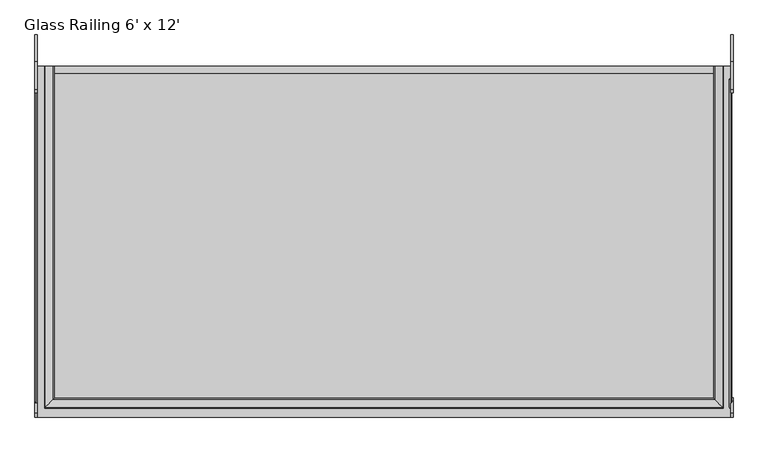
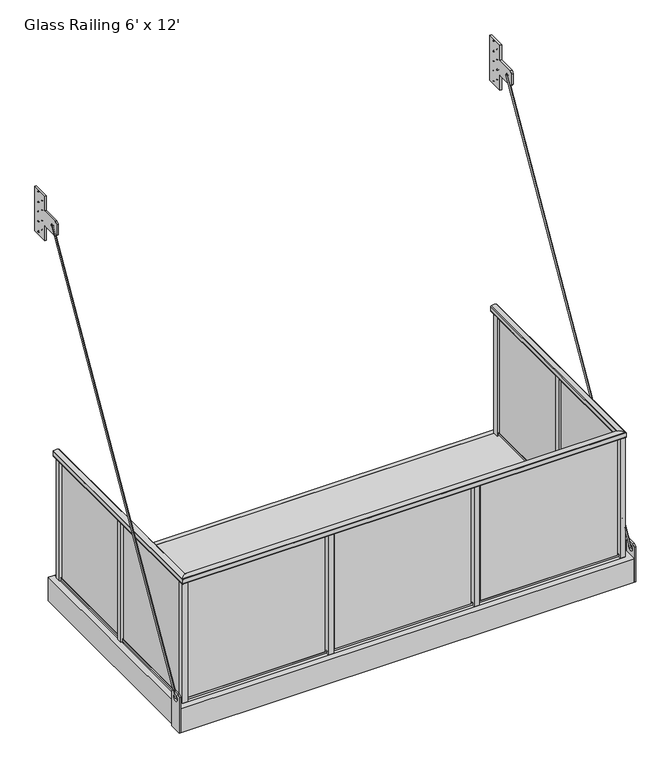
"""IFC4 building model written with IfcOpenShell, lengths in millimetres: proxy geometry, Specialty-Equipment_Endurable-Building-Products_Standard-Balcony : Glass Railing 6' x 12'."""

import ifcopenshell
import ifcopenshell.guid

model = None  # the IFC model being written
_history = None  # IfcOwnerHistory: only IFC2X3 demands one
_inside = {}  # id of a spatial element -> (the spatial element, [elements in it])
_under = {}  # id of a project, library or spatial element -> (it, [spatial elements below it])
_declared = {}  # id of a project -> (the project, [libraries it declares])
_typed = {}  # id of a type object -> (the type object, [elements of that type])
_made_of = {}  # id of a material, layer set ... -> (it, [elements and type objects made of it])


def new_model(schema):
    """Start an empty IFC model of exactly this schema.

    Asked for "IFC4X3", IfcOpenShell would pick the latest addendum, in which some entities
    have other attributes; the version numbers below select the first issue.
    IFC2X3 requires an IfcOwnerHistory on every rooted entity: one is made here for all.
    """
    global model, _history
    if schema == "IFC4X3":
        model = ifcopenshell.file(schema_version=(4, 3, 0, 0))
    else:
        model = ifcopenshell.file(schema=schema)
    _inside.clear()
    _under.clear()
    _declared.clear()
    _typed.clear()
    _made_of.clear()
    _history = None
    if model.schema == "IFC2X3":
        org = make("IfcOrganization", Name="unknown")
        user = make(
            "IfcPersonAndOrganization",
            ThePerson=make("IfcPerson", FamilyName="unknown"),
            TheOrganization=org,
        )
        app = make(
            "IfcApplication",
            ApplicationDeveloper=org,
            Version="unknown",
            ApplicationFullName="unknown",
            ApplicationIdentifier="unknown",
        )
        _history = make(
            "IfcOwnerHistory",
            OwningUser=user,
            OwningApplication=app,
            ChangeAction="ADDED",
            CreationDate=0,
        )
    return model


def make(cls, **values):
    """One entity of the class cls with the attributes given. An attribute that is None is left unset."""
    return model.create_entity(
        cls, **{name: value for name, value in values.items() if value is not None}
    )


def rooted(cls, **values):
    """An entity with a GlobalId (a new one), such as an element, a storey or a relation."""
    return make(cls, GlobalId=ifcopenshell.guid.new(), OwnerHistory=_history, **values)


def si_unit(unit_type, name, prefix=None):
    """IfcSIUnit, for example si_unit("LENGTHUNIT", "METRE", prefix="MILLI")."""
    return make("IfcSIUnit", UnitType=unit_type, Prefix=prefix, Name=name)


def assignment(units):
    """IfcUnitAssignment: the units of a project."""
    return None if units is None else make("IfcUnitAssignment", Units=units)


def point(xyz):
    """IfcCartesianPoint."""
    return None if xyz is None else make("IfcCartesianPoint", Coordinates=xyz)


def direction(xyz):
    """IfcDirection."""
    return None if xyz is None else make("IfcDirection", DirectionRatios=xyz)


def frame(location, z_axis=None, x_axis=None):
    """IfcAxis2Placement3D, a coordinate frame: its origin and axes. An axis left out is left unset."""
    return make(
        "IfcAxis2Placement3D",
        Location=point(location),
        Axis=direction(z_axis),
        RefDirection=direction(x_axis),
    )


def frame_2d(location, x_axis=None):
    """IfcAxis2Placement2D, a coordinate frame in the plane: its origin and x axis."""
    return make(
        "IfcAxis2Placement2D", Location=point(location), RefDirection=direction(x_axis)
    )


def origin():
    """The frame at (0, 0, 0) with its axes left unset."""
    return frame((0.0, 0.0, 0.0))


def origin_2d():
    """The frame at (0, 0) in the plane with its x axis left unset."""
    return frame_2d((0.0, 0.0))


def place(relative_to, where):
    """IfcLocalPlacement: puts the frame where relative to a parent placement (None: the world)."""
    return make(
        "IfcLocalPlacement", PlacementRelTo=relative_to, RelativePlacement=where
    )


def context(
    kind, dimensions, precision=None, world=None, true_north=None, identifier=None
):
    """IfcGeometricRepresentationContext, for example the 3D "Model" context."""
    return make(
        "IfcGeometricRepresentationContext",
        ContextIdentifier=identifier,
        ContextType=kind,
        CoordinateSpaceDimension=dimensions,
        Precision=precision,
        WorldCoordinateSystem=world,
        TrueNorth=true_north,
    )


def project(units=None, contexts=None):
    """IfcProject with its units and contexts."""
    return rooted(
        "IfcProject",
        Name="project",
        RepresentationContexts=contexts,
        UnitsInContext=assignment(units),
    )


def spatial(cls, under=None, at=None, **own):
    """A site, building, storey or space (cls), placed at a placement, below another one or the project."""
    s = rooted(cls, ObjectPlacement=at, **own)
    if under is not None:
        _under.setdefault(under.id(), (under, []))[1].append(s)
    return s


def polyline(points):
    """IfcPolyline through the points."""
    return make("IfcPolyline", Points=[point(p) for p in points])


def circle_curve(where, radius):
    """IfcCircle in the frame where."""
    return make("IfcCircle", Position=where, Radius=radius)


def ellipse_curve(where, semi_axis1, semi_axis2):
    """IfcEllipse in the frame where."""
    return make(
        "IfcEllipse", Position=where, SemiAxis1=semi_axis1, SemiAxis2=semi_axis2
    )


def trimmed(basis, trim1, trim2, sense, master):
    """IfcTrimmedCurve: the piece of a basis curve between two trims."""
    return make(
        "IfcTrimmedCurve",
        BasisCurve=basis,
        Trim1=trim1,
        Trim2=trim2,
        SenseAgreement=sense,
        MasterRepresentation=master,
    )


def segment(curve, same_sense, transition):
    """IfcCompositeCurveSegment."""
    return make(
        "IfcCompositeCurveSegment",
        Transition=transition,
        SameSense=same_sense,
        ParentCurve=curve,
    )


def composite_curve(segments, self_intersect=None):
    """IfcCompositeCurve: segments joined end to end."""
    return make("IfcCompositeCurve", Segments=segments, SelfIntersect=self_intersect)


def outline(outer, holes=None, kind="AREA"):
    """IfcArbitraryClosedProfileDef: a profile drawn as a closed curve; with holes, ...WithVoids."""
    if holes is None:
        return make("IfcArbitraryClosedProfileDef", ProfileType=kind, OuterCurve=outer)
    return make(
        "IfcArbitraryProfileDefWithVoids",
        ProfileType=kind,
        OuterCurve=outer,
        InnerCurves=holes,
    )


def extrude(swept, where, along, depth):
    """IfcExtrudedAreaSolid: the profile swept, set in the frame where, extruded along a direction by depth."""
    return make(
        "IfcExtrudedAreaSolid",
        SweptArea=swept,
        Position=where,
        ExtrudedDirection=direction(along),
        Depth=depth,
    )


def shape(context_of_items, identifier, shape_type, items):
    """IfcShapeRepresentation: the items that make up one representation, for example the "Body"."""
    return make(
        "IfcShapeRepresentation",
        ContextOfItems=context_of_items,
        RepresentationIdentifier=identifier,
        RepresentationType=shape_type,
        Items=items,
    )


def source(mapping_origin, context_of_items, identifier, shape_type, items):
    """IfcRepresentationMap: a shape defined once, which mapped items show again and again."""
    return make(
        "IfcRepresentationMap",
        MappingOrigin=mapping_origin,
        MappedRepresentation=shape(context_of_items, identifier, shape_type, items),
    )


def transform(
    local_origin,
    x_axis=None,
    y_axis=None,
    z_axis=None,
    scale=None,
    scale2=None,
    scale3=None,
    uniform=True,
):
    """IfcCartesianTransformationOperator3D, or its non-uniform kind. x_axis, y_axis, z_axis: its Axis1, 2, 3."""
    if uniform:
        return make(
            "IfcCartesianTransformationOperator3D",
            Axis1=direction(x_axis),
            Axis2=direction(y_axis),
            LocalOrigin=point(local_origin),
            Scale=scale,
            Axis3=direction(z_axis),
        )
    return make(
        "IfcCartesianTransformationOperator3DnonUniform",
        Axis1=direction(x_axis),
        Axis2=direction(y_axis),
        LocalOrigin=point(local_origin),
        Scale=scale,
        Axis3=direction(z_axis),
        Scale2=scale2,
        Scale3=scale3,
    )


def mapped(mapping_source, mapping_target):
    """IfcMappedItem: shows the shape of a source again, moved by a transform."""
    return make(
        "IfcMappedItem", MappingSource=mapping_source, MappingTarget=mapping_target
    )


def made_of(thing, what):
    """Note that an element or type object is made of a material, layer set ...; save() writes the relation."""
    if what is not None:
        _made_of.setdefault(what.id(), (what, []))[1].append(thing)
    return thing


def element(
    cls,
    number,
    at=None,
    inside=None,
    cuts=None,
    type_object=None,
    material=None,
    context=None,
    identifier="Body",
    shape_type=None,
    held_by="IfcProductDefinitionShape",
    body=None,
    shapes=None,
    **own,
):
    """One element of the class cls, such as IfcWall. Its Tag is "e" and its number.

    at: its placement. inside: the storey or other place that contains it. cuts: it is an
    opening in that element (IfcRelVoidsElement). A single representation is given by context,
    identifier, shape_type and body (its items); several are given by shapes. held_by: the class
    of the entity that holds the representations. save() writes the other relations.
    """
    e = rooted(cls, Tag="e%d" % number, ObjectPlacement=at, **own)
    if body is not None:
        shapes = [shape(context, identifier, shape_type, body)]
    if shapes is not None:
        e.Representation = make(held_by, Representations=shapes)
    if inside is not None:
        _inside.setdefault(inside.id(), (inside, []))[1].append(e)
    if cuts is not None:
        rooted(
            "IfcRelVoidsElement", RelatingBuildingElement=cuts, RelatedOpeningElement=e
        )
    if type_object is not None:
        _typed.setdefault(type_object.id(), (type_object, []))[1].append(e)
    return made_of(e, material)


def aggregate(whole, parts):
    """IfcRelAggregates: a whole, such as a stair, and the parts it consists of."""
    return rooted("IfcRelAggregates", RelatingObject=whole, RelatedObjects=parts)


def save(model, path):
    """Write the relations noted so far, then the file.

    IfcRelAggregates (storeys below a building ...), IfcRelContainedInSpatialStructure (elements
    in a storey), IfcRelDefinesByType, IfcRelAssociatesMaterial and IfcRelDeclares: one each for
    every whole, place, type object, material and project.
    """
    for whole, parts in _under.values():
        aggregate(whole, parts)
    for where, things in _inside.values():
        rooted(
            "IfcRelContainedInSpatialStructure",
            RelatedElements=things,
            RelatingStructure=where,
        )
    for kind, things in _typed.values():
        rooted("IfcRelDefinesByType", RelatedObjects=things, RelatingType=kind)
    for what, things in _made_of.values():
        rooted("IfcRelAssociatesMaterial", RelatedObjects=things, RelatingMaterial=what)
    for by, libraries in _declared.values():
        rooted("IfcRelDeclares", RelatingContext=by, RelatedDefinitions=libraries)
    model.write(path)


def plane_surface(at):
    """IfcPlane: the flat surface through the origin of the frame at, square to its z axis."""
    return make("IfcPlane", Position=at)


def cylinder_surface(at, radius):
    """IfcCylindricalSurface: all points at the distance radius from the z axis of the frame at."""
    return make("IfcCylindricalSurface", Position=at, Radius=radius)


def advanced_brep(points, edges, surfaces, faces):
    """IfcAdvancedBrep: a solid bounded by faces that lie on surfaces and meet in shared edges.

    An edge is (start, end): straight between two places in points (the first is 0);
    or (start, end, curve); or (start, end, curve, False) where it runs against its curve.
    A face is (place in surfaces, loops), or (place, loops, False) where it looks against
    its surface's normal. A loop lists edges by number (the first is 1), with a minus sign
    where the edge is run from its end to its start. The first loop is the outer one.
    """
    corners = [point(p) for p in points]
    vertices = [make("IfcVertexPoint", VertexGeometry=c) for c in corners]
    made = []
    for start, end, *more in edges:
        made.append(
            make(
                "IfcEdgeCurve",
                EdgeStart=vertices[start],
                EdgeEnd=vertices[end],
                EdgeGeometry=more[0] if more else make("IfcPolyline", Points=[corners[start], corners[end]]),
                SameSense=more[1] if len(more) > 1 else True,
            )
        )
    hull = []
    for where, loops, *sense in faces:
        bounds = []
        for j, loop in enumerate(loops):
            ring = [make("IfcOrientedEdge", EdgeElement=made[abs(k) - 1], Orientation=k > 0) for k in loop]
            bounds.append(
                make(
                    "IfcFaceOuterBound" if j == 0 else "IfcFaceBound",
                    Bound=make("IfcEdgeLoop", EdgeList=ring),
                    Orientation=True,
                )
            )
        hull.append(make("IfcAdvancedFace", Bounds=bounds, FaceSurface=surfaces[where], SameSense=sense[0] if sense else True))
    return make("IfcAdvancedBrep", Outer=make("IfcClosedShell", CfsFaces=hull))


def glass_railing_6_x_12_6d85de85(model_context):
    return source(origin(), model_context, "Body", "SolidModel", [
        extrude(outline(polyline([(25.1129964, 3238.5), (164.8129964, 3238.5), (164.8129964, 2857.5), (25.1129964, 2857.5), (25.1129964, 2984.5), (-120.9370036, 2984.5), (-139.9870036, 3003.55), (-139.9870036, 3092.45), (-120.9370036, 3111.5), (25.1129964, 3111.5), (25.1129964, 3238.5)]), holes=[composite_curve([segment(trimmed(circle_curve(frame_2d((-69.85, 3048.0)), 6.35), [point((-63.5, 3048.0))], [point((-76.2, 3048.0))], True, "CARTESIAN"), True, "CONTINUOUS"), segment(trimmed(circle_curve(frame_2d((-69.85, 3048.0)), 6.35), [point((-76.2, 3048.0))], [point((-63.5, 3048.0))], True, "CARTESIAN"), True, "CONTINUOUS")], self_intersect=False), composite_curve([segment(trimmed(circle_curve(frame_2d((120.3629964, 3048.0)), 2.38125), [point((122.7442464, 3048.0))], [point((117.9817464, 3048.0))], True, "CARTESIAN"), True, "CONTINUOUS"), segment(trimmed(circle_curve(frame_2d((120.3629964, 3048.0)), 2.38125), [point((117.9817464, 3048.0))], [point((122.7442464, 3048.0))], True, "CARTESIAN"), True, "CONTINUOUS")], self_intersect=False), composite_curve([segment(trimmed(circle_curve(frame_2d((120.3629964, 3219.45)), 2.38125), [point((122.7442464, 3219.45))], [point((117.9817464, 3219.45))], True, "CARTESIAN"), True, "CONTINUOUS"), segment(trimmed(circle_curve(frame_2d((120.3629964, 3219.45)), 2.38125), [point((117.9817464, 3219.45))], [point((122.7442464, 3219.45))], True, "CARTESIAN"), True, "CONTINUOUS")], self_intersect=False), composite_curve([segment(trimmed(circle_curve(frame_2d((120.3629964, 2876.55)), 2.38125), [point((122.7442464, 2876.55))], [point((117.9817464, 2876.55))], True, "CARTESIAN"), True, "CONTINUOUS"), segment(trimmed(circle_curve(frame_2d((120.3629964, 2876.55)), 2.38125), [point((117.9817464, 2876.55))], [point((122.7442464, 2876.55))], True, "CARTESIAN"), True, "CONTINUOUS")], self_intersect=False), composite_curve([segment(trimmed(circle_curve(frame_2d((120.3629964, 2965.45)), 2.38125), [point((122.7442464, 2965.45))], [point((117.9817464, 2965.45))], True, "CARTESIAN"), True, "CONTINUOUS"), segment(trimmed(circle_curve(frame_2d((120.3629964, 2965.45)), 2.38125), [point((117.9817464, 2965.45))], [point((122.7442464, 2965.45))], True, "CARTESIAN"), True, "CONTINUOUS")], self_intersect=False), composite_curve([segment(trimmed(circle_curve(frame_2d((120.3629964, 3130.55)), 2.38125), [point((122.7442464, 3130.55))], [point((117.9817464, 3130.55))], True, "CARTESIAN"), True, "CONTINUOUS"), segment(trimmed(circle_curve(frame_2d((120.3629964, 3130.55)), 2.38125), [point((117.9817464, 3130.55))], [point((122.7442464, 3130.55))], True, "CARTESIAN"), True, "CONTINUOUS")], self_intersect=False), composite_curve([segment(trimmed(circle_curve(frame_2d((69.5629964, 3092.45)), 2.38125), [point((71.9442464, 3092.45))], [point((67.1817464, 3092.45))], True, "CARTESIAN"), True, "CONTINUOUS"), segment(trimmed(circle_curve(frame_2d((69.5629964, 3092.45)), 2.38125), [point((67.1817464, 3092.45))], [point((71.9442464, 3092.45))], True, "CARTESIAN"), True, "CONTINUOUS")], self_intersect=False), composite_curve([segment(trimmed(circle_curve(frame_2d((69.5629964, 3175.0)), 2.38125), [point((71.9442464, 3175.0))], [point((67.1817464, 3175.0))], True, "CARTESIAN"), True, "CONTINUOUS"), segment(trimmed(circle_curve(frame_2d((69.5629964, 3175.0)), 2.38125), [point((67.1817464, 3175.0))], [point((71.9442464, 3175.0))], True, "CARTESIAN"), True, "CONTINUOUS")], self_intersect=False), composite_curve([segment(trimmed(circle_curve(frame_2d((69.5629964, 3003.55)), 2.38125), [point((71.9442464, 3003.55))], [point((67.1817464, 3003.55))], True, "CARTESIAN"), True, "CONTINUOUS"), segment(trimmed(circle_curve(frame_2d((69.5629964, 3003.55)), 2.38125), [point((67.1817464, 3003.55))], [point((71.9442464, 3003.55))], True, "CARTESIAN"), True, "CONTINUOUS")], self_intersect=False), composite_curve([segment(trimmed(circle_curve(frame_2d((69.5629964, 2921.0)), 2.38125), [point((71.9442464, 2921.0))], [point((67.1817464, 2921.0))], True, "CARTESIAN"), True, "CONTINUOUS"), segment(trimmed(circle_curve(frame_2d((69.5629964, 2921.0)), 2.38125), [point((67.1817464, 2921.0))], [point((71.9442464, 2921.0))], True, "CARTESIAN"), True, "CONTINUOUS")], self_intersect=False)]), frame((-1841.5, 0.0, 0.0), z_axis=(1.0, 0.0, 0.0), x_axis=(0.0, 1.0, 0.0)), (0.0, 0.0, 1.0), 12.7),
        extrude(outline(polyline([(25.1129964, 3238.5), (164.8129964, 3238.5), (164.8129964, 2857.5), (25.1129964, 2857.5), (25.1129964, 2984.5), (-120.9370036, 2984.5), (-139.9870036, 3003.55), (-139.9870036, 3092.45), (-120.9370036, 3111.5), (25.1129964, 3111.5), (25.1129964, 3238.5)]), holes=[composite_curve([segment(trimmed(circle_curve(frame_2d((-69.85, 3048.0)), 6.35), [point((-63.5, 3048.0))], [point((-76.2, 3048.0))], True, "CARTESIAN"), True, "CONTINUOUS"), segment(trimmed(circle_curve(frame_2d((-69.85, 3048.0)), 6.35), [point((-76.2, 3048.0))], [point((-63.5, 3048.0))], True, "CARTESIAN"), True, "CONTINUOUS")], self_intersect=False), composite_curve([segment(trimmed(circle_curve(frame_2d((120.3629964, 3048.0)), 2.38125), [point((122.7442464, 3048.0))], [point((117.9817464, 3048.0))], True, "CARTESIAN"), True, "CONTINUOUS"), segment(trimmed(circle_curve(frame_2d((120.3629964, 3048.0)), 2.38125), [point((117.9817464, 3048.0))], [point((122.7442464, 3048.0))], True, "CARTESIAN"), True, "CONTINUOUS")], self_intersect=False), composite_curve([segment(trimmed(circle_curve(frame_2d((120.3629964, 3219.45)), 2.38125), [point((122.7442464, 3219.45))], [point((117.9817464, 3219.45))], True, "CARTESIAN"), True, "CONTINUOUS"), segment(trimmed(circle_curve(frame_2d((120.3629964, 3219.45)), 2.38125), [point((117.9817464, 3219.45))], [point((122.7442464, 3219.45))], True, "CARTESIAN"), True, "CONTINUOUS")], self_intersect=False), composite_curve([segment(trimmed(circle_curve(frame_2d((120.3629964, 2876.55)), 2.38125), [point((122.7442464, 2876.55))], [point((117.9817464, 2876.55))], True, "CARTESIAN"), True, "CONTINUOUS"), segment(trimmed(circle_curve(frame_2d((120.3629964, 2876.55)), 2.38125), [point((117.9817464, 2876.55))], [point((122.7442464, 2876.55))], True, "CARTESIAN"), True, "CONTINUOUS")], self_intersect=False), composite_curve([segment(trimmed(circle_curve(frame_2d((120.3629964, 2965.45)), 2.38125), [point((122.7442464, 2965.45))], [point((117.9817464, 2965.45))], True, "CARTESIAN"), True, "CONTINUOUS"), segment(trimmed(circle_curve(frame_2d((120.3629964, 2965.45)), 2.38125), [point((117.9817464, 2965.45))], [point((122.7442464, 2965.45))], True, "CARTESIAN"), True, "CONTINUOUS")], self_intersect=False), composite_curve([segment(trimmed(circle_curve(frame_2d((120.3629964, 3130.55)), 2.38125), [point((122.7442464, 3130.55))], [point((117.9817464, 3130.55))], True, "CARTESIAN"), True, "CONTINUOUS"), segment(trimmed(circle_curve(frame_2d((120.3629964, 3130.55)), 2.38125), [point((117.9817464, 3130.55))], [point((122.7442464, 3130.55))], True, "CARTESIAN"), True, "CONTINUOUS")], self_intersect=False), composite_curve([segment(trimmed(circle_curve(frame_2d((69.5629964, 3092.45)), 2.38125), [point((71.9442464, 3092.45))], [point((67.1817464, 3092.45))], True, "CARTESIAN"), True, "CONTINUOUS"), segment(trimmed(circle_curve(frame_2d((69.5629964, 3092.45)), 2.38125), [point((67.1817464, 3092.45))], [point((71.9442464, 3092.45))], True, "CARTESIAN"), True, "CONTINUOUS")], self_intersect=False), composite_curve([segment(trimmed(circle_curve(frame_2d((69.5629964, 3175.0)), 2.38125), [point((71.9442464, 3175.0))], [point((67.1817464, 3175.0))], True, "CARTESIAN"), True, "CONTINUOUS"), segment(trimmed(circle_curve(frame_2d((69.5629964, 3175.0)), 2.38125), [point((67.1817464, 3175.0))], [point((71.9442464, 3175.0))], True, "CARTESIAN"), True, "CONTINUOUS")], self_intersect=False), composite_curve([segment(trimmed(circle_curve(frame_2d((69.5629964, 3003.55)), 2.38125), [point((71.9442464, 3003.55))], [point((67.1817464, 3003.55))], True, "CARTESIAN"), True, "CONTINUOUS"), segment(trimmed(circle_curve(frame_2d((69.5629964, 3003.55)), 2.38125), [point((67.1817464, 3003.55))], [point((71.9442464, 3003.55))], True, "CARTESIAN"), True, "CONTINUOUS")], self_intersect=False), composite_curve([segment(trimmed(circle_curve(frame_2d((69.5629964, 2921.0)), 2.38125), [point((71.9442464, 2921.0))], [point((67.1817464, 2921.0))], True, "CARTESIAN"), True, "CONTINUOUS"), segment(trimmed(circle_curve(frame_2d((69.5629964, 2921.0)), 2.38125), [point((67.1817464, 2921.0))], [point((71.9442464, 2921.0))], True, "CARTESIAN"), True, "CONTINUOUS")], self_intersect=False)]), frame((1828.8, 0.0, 0.0), z_axis=(1.0, 0.0, 0.0), x_axis=(0.0, 1.0, 0.0)), (0.0, 0.0, 1.0), 12.7),
        extrude(outline(polyline([(-1850.23125, -203.2), (-1850.23125, 96.7382813), (-1831.18125, 115.7882813), (-1767.68125, 115.7882813), (-1748.63125, 96.7382813), (-1748.63125, -203.2), (-1850.23125, -203.2)]), holes=[composite_curve([segment(trimmed(circle_curve(frame_2d((-1799.43125, 64.9882813)), 25.4), [point((-1824.83125, 64.9882813))], [point((-1774.03125, 64.9882813))], True, "CARTESIAN"), True, "CONTINUOUS"), segment(trimmed(circle_curve(frame_2d((-1799.43125, 64.9882813)), 25.4), [point((-1774.03125, 64.9882813))], [point((-1824.83125, 64.9882813))], True, "CARTESIAN"), True, "CONTINUOUS")], self_intersect=False)]), frame((-1841.5, 0.0, 0.0), z_axis=(1.0, 0.0, 0.0), x_axis=(0.0, 1.0, 0.0)), (0.0, 0.0, 1.0), 12.7),
        extrude(outline(polyline([(-1850.23125, -203.2), (-1850.23125, 96.7382812), (-1831.18125, 115.7882812), (-1767.68125, 115.7882812), (-1748.63125, 96.7382812), (-1748.63125, -203.2), (-1850.23125, -203.2)]), holes=[composite_curve([segment(trimmed(circle_curve(frame_2d((-1799.43125, 64.9882812)), 25.4), [point((-1824.83125, 64.9882812))], [point((-1774.03125, 64.9882812))], True, "CARTESIAN"), True, "CONTINUOUS"), segment(trimmed(circle_curve(frame_2d((-1799.43125, 64.9882812)), 25.4), [point((-1774.03125, 64.9882812))], [point((-1824.83125, 64.9882812))], True, "CARTESIAN"), True, "CONTINUOUS")], self_intersect=False)]), frame((1828.8, 0.0, 0.0), z_axis=(1.0, 0.0, 0.0), x_axis=(0.0, 1.0, 0.0)), (0.0, 0.0, 1.0), 12.7),
        extrude(outline(polyline([(1202.8714286, -38.1), (1202.8714286, -1799.43125), (1164.7714286, -1799.43125), (1164.7714286, -38.1), (1202.8714286, -38.1)])), frame((0.0, 0.0, -203.2), z_axis=(0.0, 0.0, 1.0), x_axis=(1.0, 0.0, 0.0)), (0.0, 0.0, 1.0), 177.8),
        extrude(outline(polyline([(729.3428571, -38.1), (729.3428571, -1799.43125), (691.2428571, -1799.43125), (691.2428571, -38.1), (729.3428571, -38.1)])), frame((0.0, 0.0, -203.2), z_axis=(0.0, 0.0, 1.0), x_axis=(1.0, 0.0, 0.0)), (0.0, 0.0, 1.0), 177.8),
        extrude(outline(polyline([(255.8142857, -38.1), (255.8142857, -1799.43125), (217.7142857, -1799.43125), (217.7142857, -38.1), (255.8142857, -38.1)])), frame((0.0, 0.0, -203.2), z_axis=(0.0, 0.0, 1.0), x_axis=(1.0, 0.0, 0.0)), (0.0, 0.0, 1.0), 177.8),
        extrude(outline(polyline([(-217.7142857, -38.1), (-217.7142857, -1799.43125), (-255.8142857, -1799.43125), (-255.8142857, -38.1), (-217.7142857, -38.1)])), frame((0.0, 0.0, -203.2), z_axis=(0.0, 0.0, 1.0), x_axis=(1.0, 0.0, 0.0)), (0.0, 0.0, 1.0), 177.8),
        extrude(outline(polyline([(-691.2428571, -38.1), (-691.2428571, -1799.43125), (-729.3428571, -1799.43125), (-729.3428571, -38.1), (-691.2428571, -38.1)])), frame((0.0, 0.0, -203.2), z_axis=(0.0, 0.0, 1.0), x_axis=(1.0, 0.0, 0.0)), (0.0, 0.0, 1.0), 177.8),
        extrude(outline(polyline([(-1164.7714286, -38.1), (-1164.7714286, -1799.43125), (-1202.8714286, -1799.43125), (-1202.8714286, -38.1), (-1164.7714286, -38.1)])), frame((0.0, 0.0, -203.2), z_axis=(0.0, 0.0, 1.0), x_axis=(1.0, 0.0, 0.0)), (0.0, 0.0, 1.0), 177.8),
        extrude(outline(polyline([(1676.4, -38.1), (1676.4, -1799.43125), (1638.3, -1799.43125), (1638.3, -38.1), (1676.4, -38.1)])), frame((0.0, 0.0, -203.2), z_axis=(0.0, 0.0, 1.0), x_axis=(1.0, 0.0, 0.0)), (0.0, 0.0, 1.0), 177.8),
        extrude(outline(polyline([(1773.2375, -80.9625), (1773.2375, -897.334375), (1757.3625, -897.334375), (1757.3625, -80.9625), (1773.2375, -80.9625)])), frame((0.0, 0.0, 9.525), z_axis=(0.0, 0.0, 1.0), x_axis=(1.0, 0.0, 0.0)), (0.0, 0.0, 1.0), 15.875),
        extrude(outline(polyline([(1773.2375, -940.196875), (1773.2375, -1756.56875), (1757.3625, -1756.56875), (1757.3625, -940.196875), (1773.2375, -940.196875)])), frame((0.0, 0.0, 9.525), z_axis=(0.0, 0.0, 1.0), x_axis=(1.0, 0.0, 0.0)), (0.0, 0.0, 1.0), 15.875),
        extrude(outline(polyline([(-1773.2375, -80.9625), (-1757.3625, -80.9625), (-1757.3625, -897.334375), (-1773.2375, -897.334375), (-1773.2375, -80.9625)])), frame((0.0, 0.0, 9.525), z_axis=(0.0, 0.0, 1.0), x_axis=(1.0, 0.0, 0.0)), (0.0, 0.0, 1.0), 15.875),
        extrude(outline(polyline([(-1773.2375, -940.196875), (-1757.3625, -940.196875), (-1757.3625, -1756.56875), (-1773.2375, -1756.56875), (-1773.2375, -940.196875)])), frame((0.0, 0.0, 9.525), z_axis=(0.0, 0.0, 1.0), x_axis=(1.0, 0.0, 0.0)), (0.0, 0.0, 1.0), 15.875),
        extrude(outline(polyline([(-547.9520833, -1770.0625), (547.9520833, -1770.0625), (547.9520833, -1785.9375), (-547.9520833, -1785.9375), (-547.9520833, -1770.0625)])), frame((0.0, 0.0, 25.4), z_axis=(0.0, 0.0, 1.0), x_axis=(1.0, 0.0, 0.0)), (0.0, 0.0, 1.0), 990.6),
        extrude(outline(polyline([(-567.0020833, -1770.0625), (567.0020833, -1770.0625), (567.0020833, -1785.9375), (-567.0020833, -1785.9375), (-567.0020833, -1770.0625)])), frame((0.0, 0.0, 9.525), z_axis=(0.0, 0.0, 1.0), x_axis=(1.0, 0.0, 0.0)), (0.0, 0.0, 1.0), 15.875),
        extrude(outline(polyline([(-1771.65, -883.046875), (-1771.65, -95.25), (-1758.95, -95.25), (-1758.95, -883.046875), (-1771.65, -883.046875)])), frame((0.0, 0.0, 25.4), z_axis=(0.0, 0.0, 1.0), x_axis=(1.0, 0.0, 0.0)), (0.0, 0.0, 1.0), 990.6),
        extrude(outline(polyline([(1771.65, -883.046875), (1758.95, -883.046875), (1758.95, -95.25), (1771.65, -95.25), (1771.65, -883.046875)])), frame((0.0, 0.0, 25.4), z_axis=(0.0, 0.0, 1.0), x_axis=(1.0, 0.0, 0.0)), (0.0, 0.0, 1.0), 990.6),
        extrude(outline(polyline([(-567.0020833, -1756.56875), (-567.0020833, -1799.43125), (-609.8645833, -1799.43125), (-609.8645833, -1756.56875), (-567.0020833, -1756.56875)])), frame((0.0, 0.0, -203.2), z_axis=(0.0, 0.0, 1.0), x_axis=(1.0, 0.0, 0.0)), (0.0, 0.0, 1.0), 1219.2),
        extrude(outline(polyline([(609.8645833, -1756.56875), (609.8645833, -1799.43125), (567.0020833, -1799.43125), (567.0020833, -1756.56875), (609.8645833, -1756.56875)])), frame((0.0, 0.0, -203.2), z_axis=(0.0, 0.0, 1.0), x_axis=(1.0, 0.0, 0.0)), (0.0, 0.0, 1.0), 1219.2),
        extrude(outline(polyline([(1743.86875, -38.1), (1786.73125, -38.1), (1786.73125, -80.9625), (1743.86875, -80.9625), (1743.86875, -38.1)])), frame((0.0, 0.0, -203.2), z_axis=(0.0, 0.0, 1.0), x_axis=(1.0, 0.0, 0.0)), (0.0, 0.0, 1.0), 1219.2),
        extrude(outline(polyline([(-1743.86875, -38.1), (-1743.86875, -80.9625), (-1786.73125, -80.9625), (-1786.73125, -38.1), (-1743.86875, -38.1)])), frame((0.0, 0.0, -203.2), z_axis=(0.0, 0.0, 1.0), x_axis=(1.0, 0.0, 0.0)), (0.0, 0.0, 1.0), 1219.2),
        extrude(outline(polyline([(1786.73125, -897.334375), (1786.73125, -940.196875), (1743.86875, -940.196875), (1743.86875, -897.334375), (1786.73125, -897.334375)])), frame((0.0, 0.0, -203.2), z_axis=(0.0, 0.0, 1.0), x_axis=(1.0, 0.0, 0.0)), (0.0, 0.0, 1.0), 1219.2),
        extrude(outline(polyline([(-1743.86875, -897.334375), (-1743.86875, -940.196875), (-1786.73125, -940.196875), (-1786.73125, -897.334375), (-1743.86875, -897.334375)])), frame((0.0, 0.0, -203.2), z_axis=(0.0, 0.0, 1.0), x_axis=(1.0, 0.0, 0.0)), (0.0, 0.0, 1.0), 1219.2),
        extrude(outline(polyline([(1778.0, 0.0), (1778.0, -38.1), (-1778.0, -38.1), (-1778.0, 0.0), (1778.0, 0.0)])), frame((0.0, 0.0, -203.2), z_axis=(0.0, 0.0, 1.0), x_axis=(1.0, 0.0, 0.0)), (0.0, 0.0, 1.0), 203.2),
        extrude(outline(polyline([(-1638.3, -38.1), (-1638.3, -1799.43125), (-1676.4, -1799.43125), (-1676.4, -38.1), (-1638.3, -38.1)])), frame((0.0, 0.0, -203.2), z_axis=(0.0, 0.0, 1.0), x_axis=(1.0, 0.0, 0.0)), (0.0, 0.0, 1.0), 177.8),
        extrude(outline(polyline([(1729.58125, -1770.0625), (1729.58125, -1785.9375), (628.9145833, -1785.9375), (628.9145833, -1770.0625), (1729.58125, -1770.0625)])), frame((0.0, 0.0, 25.4), z_axis=(0.0, 0.0, 1.0), x_axis=(1.0, 0.0, 0.0)), (0.0, 0.0, 1.0), 990.6),
        extrude(outline(polyline([(-1729.58125, -1785.9375), (-1729.58125, -1770.0625), (-628.9145833, -1770.0625), (-628.9145833, -1785.9375), (-1729.58125, -1785.9375)])), frame((0.0, 0.0, 25.4), z_axis=(0.0, 0.0, 1.0), x_axis=(1.0, 0.0, 0.0)), (0.0, 0.0, 1.0), 990.6),
        extrude(outline(polyline([(1771.65, -954.484375), (1771.65, -1742.28125), (1758.95, -1742.28125), (1758.95, -954.484375), (1771.65, -954.484375)])), frame((0.0, 0.0, 25.4), z_axis=(0.0, 0.0, 1.0), x_axis=(1.0, 0.0, 0.0)), (0.0, 0.0, 1.0), 990.6),
        extrude(outline(polyline([(-1758.95, -954.484375), (-1758.95, -1756.56875), (-1771.65, -1756.56875), (-1771.65, -954.484375), (-1758.95, -954.484375)])), frame((0.0, 0.0, 25.4), z_axis=(0.0, 0.0, 1.0), x_axis=(1.0, 0.0, 0.0)), (0.0, 0.0, 1.0), 990.6),
        extrude(outline(polyline([(-1743.86875, -1756.56875), (-1743.86875, -1799.43125), (-1786.73125, -1799.43125), (-1786.73125, -1756.56875), (-1743.86875, -1756.56875)])), frame((0.0, 0.0, -203.2), z_axis=(0.0, 0.0, 1.0), x_axis=(1.0, 0.0, 0.0)), (0.0, 0.0, 1.0), 1219.2),
        extrude(outline(polyline([(1786.73125, -1756.56875), (1786.73125, -1799.43125), (1743.86875, -1799.43125), (1743.86875, -1756.56875), (1786.73125, -1756.56875)])), frame((0.0, 0.0, -203.2), z_axis=(0.0, 0.0, 1.0), x_axis=(1.0, 0.0, 0.0)), (0.0, 0.0, 1.0), 1219.2),
        extrude(outline(polyline([(609.8645833, -1770.0625), (1743.86875, -1770.0625), (1743.86875, -1785.9375), (609.8645833, -1785.9375), (609.8645833, -1770.0625)])), frame((0.0, 0.0, 9.525), z_axis=(0.0, 0.0, 1.0), x_axis=(1.0, 0.0, 0.0)), (0.0, 0.0, 1.0), 15.875),
        extrude(outline(polyline([(-609.8645833, -1770.0625), (-609.8645833, -1785.9375), (-1743.86875, -1785.9375), (-1743.86875, -1770.0625), (-609.8645833, -1770.0625)])), frame((0.0, 0.0, 9.525), z_axis=(0.0, 0.0, 1.0), x_axis=(1.0, 0.0, 0.0)), (0.0, 0.0, 1.0), 15.875),
        extrude(outline(polyline([(-1778.0, -1799.43125), (-1778.0, -38.1), (1778.0, -38.1), (1778.0, -1799.43125), (-1778.0, -1799.43125)])), frame((0.0, 0.0, -25.4), z_axis=(0.0, 0.0, 1.0), x_axis=(1.0, 0.0, 0.0)), (0.0, 0.0, 1.0), 25.4),
        extrude(outline(composite_curve([segment(trimmed(circle_curve(frame_2d((-6.35, 0.0)), 6.35), [point((-6.35, 6.35))], [point((-6.35, -6.35))], False, "CARTESIAN"), True, "CONTINUOUS"), segment(trimmed(circle_curve(frame_2d((-6.35, 0.0)), 6.35), [point((-6.35, -6.35))], [point((-6.35, 6.35))], False, "CARTESIAN"), True, "CONTINUOUS")], self_intersect=False)), frame((-1828.8, -1799.43125, 64.9882812), z_axis=(0.0, 0.501595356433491, 0.8651023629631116), x_axis=(1.0, 0.0, 0.0)), (0.0, 0.0, 1.0), 3448.1604102),
        extrude(outline(composite_curve([segment(trimmed(circle_curve(origin_2d(), 6.35), [point((0.0, 6.35))], [point((0.0, -6.35))], False, "CARTESIAN"), True, "CONTINUOUS"), segment(trimmed(circle_curve(origin_2d(), 6.35), [point((0.0, -6.35))], [point((0.0, 6.35))], False, "CARTESIAN"), True, "CONTINUOUS")], self_intersect=False)), frame((1828.8, -1799.43125, 64.9882812), z_axis=(0.0, 0.5015953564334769, 0.8651023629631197), x_axis=(-1.0, 0.0, 0.0)), (0.0, 0.0, 1.0), 3448.1604102),
        extrude(outline(polyline([(-1828.8, 0.0), (-1778.0, 0.0), (-1778.0, -1799.43125), (1778.0, -1799.43125), (1778.0, 0.0), (1828.8, 0.0), (1828.8, -1850.23125), (-1828.8, -1850.23125), (-1828.8, 0.0)])), frame((0.0, 0.0, -203.2), z_axis=(0.0, 0.0, 1.0), x_axis=(1.0, 0.0, 0.0)), (0.0, 0.0, 1.0), 203.2),
        advanced_brep(
        [(1790.7, 0.0, 1056.4003287), (1790.7, 0.0, 1022.35), (1784.35, 0.0, 1016.0), (1746.25, 0.0, 1016.0), (1739.9, 0.0, 1022.35), (1739.9, 0.0, 1056.4003287), (1743.6669492, 0.0, 1062.2012207), (1786.9330508, 0.0, 1062.2012207), (-1790.7, 0.0, 1056.4003287), (-1786.9330508, 0.0, 1062.2012207), (-1743.6669492, 0.0, 1062.2012207), (-1739.9, 0.0, 1056.4003287), (-1739.9, 0.0, 1022.35), (-1746.25, 0.0, 1016.0), (-1784.35, 0.0, 1016.0), (-1790.7, 0.0, 1022.35), (1790.7, -1803.4, 1056.4003287), (1790.7, -1803.4, 1022.35), (1784.35, -1797.05, 1016.0), (-1784.35, -1797.05, 1016.0), (-1746.25, -1758.95, 1016.0), (1746.25, -1758.95, 1016.0), (1739.9, -1752.6, 1022.35), (1739.9, -1752.6, 1056.4003287), (1743.6669492, -1756.3669492, 1062.2012207), (1786.9330508, -1799.6330508, 1062.2012207), (-1790.7, -1803.4, 1056.4003287), (-1790.7, -1803.4, 1022.35), (-1739.9, -1752.6, 1022.35), (-1739.9, -1752.6, 1056.4003287), (-1743.6669492, -1756.3669492, 1062.2012207), (-1786.9330508, -1799.6330508, 1062.2012207)],
        [
            (0, 1),
            (1, 2, circle_curve(frame((1784.35, 0.0, 1022.35), z_axis=(0.0, 1.0, 0.0), x_axis=(1.0, 0.0, 0.0)), 6.35)),
            (2, 3),
            (3, 4, circle_curve(frame((1746.25, 0.0, 1022.35), z_axis=(0.0, 1.0, 0.0), x_axis=(1.0, 0.0, 0.0)), 6.35)),
            (4, 5),
            (5, 6, circle_curve(frame((1746.25, 0.0, 1056.4003287), z_axis=(0.0, 1.0, 0.0), x_axis=(1.0, 0.0, 0.0)), 6.35)),
            (6, 7, circle_curve(frame((1765.3, 0.0, 1013.61875), z_axis=(0.0, 1.0, 0.0), x_axis=(1.0, 0.0, 0.0)), 53.18125)),
            (7, 0, circle_curve(frame((1784.35, 0.0, 1056.4003287), z_axis=(0.0, 1.0, 0.0), x_axis=(1.0, 0.0, 0.0)), 6.35)),
            (8, 9, circle_curve(frame((-1784.35, 0.0, 1056.4003287), z_axis=(0.0, 1.0, 0.0), x_axis=(-1.0, 0.0, 0.0)), 6.35)),
            (9, 10, circle_curve(frame((-1765.3, 0.0, 1013.61875), z_axis=(0.0, 1.0, 0.0), x_axis=(-1.0, 0.0, 0.0)), 53.18125)),
            (10, 11, circle_curve(frame((-1746.25, 0.0, 1056.4003287), z_axis=(0.0, 1.0, 0.0), x_axis=(-1.0, 0.0, 0.0)), 6.35)),
            (11, 12),
            (12, 13, circle_curve(frame((-1746.25, 0.0, 1022.35), z_axis=(0.0, 1.0, 0.0), x_axis=(-1.0, 0.0, 0.0)), 6.35)),
            (13, 14),
            (14, 15, circle_curve(frame((-1784.35, 0.0, 1022.35), z_axis=(0.0, 1.0, 0.0), x_axis=(-1.0, 0.0, 0.0)), 6.35)),
            (15, 8),
            (0, 16),
            (16, 17),
            (17, 1),
            (17, 18, ellipse_curve(frame((1784.35, -1797.05, 1022.35), z_axis=(0.7071067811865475, 0.7071067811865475, 0.0), x_axis=(-0.7071067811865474, 0.7071067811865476, 0.0)), 8.9802561, 6.35)),
            (18, 2),
            (18, 19),
            (19, 14),
            (13, 20),
            (20, 21),
            (21, 3),
            (21, 22, ellipse_curve(frame((1746.25, -1758.95, 1022.35), z_axis=(0.7071067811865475, 0.7071067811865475, 0.0), x_axis=(-0.7071067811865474, 0.7071067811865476, 0.0)), 8.9802561, 6.35)),
            (22, 4),
            (22, 23),
            (23, 5),
            (23, 24, ellipse_curve(frame((1746.25, -1758.95, 1056.4003287), z_axis=(0.7071067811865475, 0.7071067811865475, 0.0), x_axis=(-0.7071067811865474, 0.7071067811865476, 0.0)), 8.9802561, 6.35)),
            (24, 6),
            (24, 25, ellipse_curve(frame((1765.3, -1778.0, 1013.61875), z_axis=(0.7071067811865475, 0.7071067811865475, 0.0), x_axis=(-0.7071067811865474, 0.7071067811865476, 0.0)), 75.209645, 53.18125)),
            (25, 7),
            (25, 16, ellipse_curve(frame((1784.35, -1797.05, 1056.4003287), z_axis=(0.7071067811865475, 0.7071067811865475, 0.0), x_axis=(-0.7071067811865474, 0.7071067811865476, 0.0)), 8.9802561, 6.35)),
            (16, 26),
            (26, 27),
            (27, 17),
            (27, 19, ellipse_curve(frame((-1784.35, -1797.05, 1022.35), z_axis=(0.7071067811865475, -0.7071067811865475, 0.0), x_axis=(0.7071067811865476, 0.7071067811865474, 0.0)), 8.9802561, 6.35)),
            (20, 28, ellipse_curve(frame((-1746.25, -1758.95, 1022.35), z_axis=(0.7071067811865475, -0.7071067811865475, 0.0), x_axis=(0.7071067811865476, 0.7071067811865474, 0.0)), 8.9802561, 6.35)),
            (28, 22),
            (28, 29),
            (29, 23),
            (29, 30, ellipse_curve(frame((-1746.25, -1758.95, 1056.4003287), z_axis=(0.7071067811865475, -0.7071067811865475, 0.0), x_axis=(0.7071067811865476, 0.7071067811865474, 0.0)), 8.9802561, 6.35)),
            (30, 24),
            (30, 31, ellipse_curve(frame((-1765.3, -1778.0, 1013.61875), z_axis=(0.7071067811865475, -0.7071067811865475, 0.0), x_axis=(0.7071067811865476, 0.7071067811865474, 0.0)), 75.209645, 53.18125)),
            (31, 25),
            (31, 26, ellipse_curve(frame((-1784.35, -1797.05, 1056.4003287), z_axis=(0.7071067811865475, -0.7071067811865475, 0.0), x_axis=(0.7071067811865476, 0.7071067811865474, 0.0)), 8.9802561, 6.35)),
            (26, 8),
            (15, 27),
            (12, 28),
            (11, 29),
            (10, 30),
            (9, 31),
        ],
        [
            plane_surface(frame((1765.3, 0.0, 0.0), z_axis=(0.0, 1.0, 0.0), x_axis=(0.0, 0.0, 1.0))),
            plane_surface(frame((-1765.3, 0.0, 0.0), z_axis=(0.0, 1.0, 0.0), x_axis=(0.0, 0.0, 1.0))),
            plane_surface(frame((1790.7, 0.0, 1056.4003287), z_axis=(1.0, 0.0, 0.0), x_axis=(0.0, -1.0, 0.0))),
            cylinder_surface(frame((1784.35, 0.0, 1022.35), z_axis=(0.0, 1.0, 0.0), x_axis=(1.0, 0.0, 0.0)), 6.35),
            plane_surface(frame((1784.35, 0.0, 1016.0), z_axis=(0.0, 0.0, -1.0), x_axis=(0.0, -1.0, 0.0))),
            cylinder_surface(frame((1746.25, 0.0, 1022.35), z_axis=(0.0, 1.0, 0.0), x_axis=(1.0, 0.0, 0.0)), 6.35),
            plane_surface(frame((1739.9, 0.0, 1022.35), z_axis=(-1.0, 0.0, 0.0), x_axis=(0.0, -1.0, 0.0))),
            cylinder_surface(frame((1746.25, 0.0, 1056.4003287), z_axis=(0.0, 1.0, 0.0), x_axis=(1.0, 0.0, 0.0)), 6.35),
            cylinder_surface(frame((1765.3, 0.0, 1013.61875), z_axis=(0.0, 1.0, 0.0), x_axis=(1.0, 0.0, 0.0)), 53.18125),
            cylinder_surface(frame((1784.35, 0.0, 1056.4003287), z_axis=(0.0, 1.0, 0.0), x_axis=(1.0, 0.0, 0.0)), 6.35),
            plane_surface(frame((1790.7, -1803.4, 1056.4003287), z_axis=(0.0, -1.0, 0.0), x_axis=(-1.0, 0.0, 0.0))),
            cylinder_surface(frame((1765.3, -1797.05, 1022.35), z_axis=(1.0, 0.0, 0.0), x_axis=(0.0, -1.0, 0.0)), 6.35),
            cylinder_surface(frame((1765.3, -1758.95, 1022.35), z_axis=(1.0, 0.0, 0.0), x_axis=(0.0, -1.0, 0.0)), 6.35),
            plane_surface(frame((1739.9, -1752.6, 1022.35), z_axis=(0.0, 1.0, 0.0), x_axis=(-1.0, 0.0, 0.0))),
            cylinder_surface(frame((1765.3, -1758.95, 1056.4003287), z_axis=(1.0, 0.0, 0.0), x_axis=(0.0, -1.0, 0.0)), 6.35),
            cylinder_surface(frame((1765.3, -1778.0, 1013.61875), z_axis=(1.0, 0.0, 0.0), x_axis=(0.0, -1.0, 0.0)), 53.18125),
            cylinder_surface(frame((1765.3, -1797.05, 1056.4003287), z_axis=(1.0, 0.0, 0.0), x_axis=(0.0, -1.0, 0.0)), 6.35),
            plane_surface(frame((-1790.7, -1803.4, 1056.4003287), z_axis=(-1.0, 0.0, 0.0), x_axis=(0.0, 1.0, 0.0))),
            cylinder_surface(frame((-1784.35, -1778.0, 1022.35), z_axis=(0.0, -1.0, 0.0), x_axis=(-1.0, 0.0, 0.0)), 6.35),
            cylinder_surface(frame((-1746.25, -1778.0, 1022.35), z_axis=(0.0, -1.0, 0.0), x_axis=(-1.0, 0.0, 0.0)), 6.35),
            plane_surface(frame((-1739.9, -1752.6, 1022.35), z_axis=(1.0, 0.0, 0.0), x_axis=(0.0, 1.0, 0.0))),
            cylinder_surface(frame((-1746.25, -1778.0, 1056.4003287), z_axis=(0.0, -1.0, 0.0), x_axis=(-1.0, 0.0, 0.0)), 6.35),
            cylinder_surface(frame((-1765.3, -1778.0, 1013.61875), z_axis=(0.0, -1.0, 0.0), x_axis=(-1.0, 0.0, 0.0)), 53.18125),
            cylinder_surface(frame((-1784.35, -1778.0, 1056.4003287), z_axis=(0.0, -1.0, 0.0), x_axis=(-1.0, 0.0, 0.0)), 6.35),
        ],
        [
            (0, [[1, 2, 3, 4, 5, 6, 7, 8]]),
            (1, [[9, 10, 11, 12, 13, 14, 15, 16]]),
            (2, [[-1, 17, 18, 19]]),
            (3, [[-2, -19, 20, 21]]),
            (4, [[-3, -21, 22, 23, -14, 24, 25, 26]]),
            (5, [[-4, -26, 27, 28]]),
            (6, [[-5, -28, 29, 30]]),
            (7, [[-6, -30, 31, 32]]),
            (8, [[-7, -32, 33, 34]]),
            (9, [[-8, -34, 35, -17]]),
            (10, [[-18, 36, 37, 38]]),
            (11, [[-20, -38, 39, -22]]),
            (12, [[-27, -25, 40, 41]]),
            (13, [[-29, -41, 42, 43]]),
            (14, [[-31, -43, 44, 45]]),
            (15, [[-33, -45, 46, 47]]),
            (16, [[-35, -47, 48, -36]]),
            (17, [[-37, 49, -16, 50]]),
            (18, [[-39, -50, -15, -23]]),
            (19, [[-40, -24, -13, 51]]),
            (20, [[-42, -51, -12, 52]]),
            (21, [[-44, -52, -11, 53]]),
            (22, [[-46, -53, -10, 54]]),
            (23, [[-48, -54, -9, -49]]),
        ],
    ),
    ])


if __name__ == "__main__":
    model = new_model("IFC4")
    model_context = context("Model", 3, world=origin())
    ifc_project = project(units=[si_unit("LENGTHUNIT", "METRE", prefix="MILLI")], contexts=[model_context])
    site = spatial("IfcSite", under=ifc_project)
    building = spatial("IfcBuilding", under=site)
    placement = place(None, origin())
    glass_railing_6_x_12_shape = glass_railing_6_x_12_6d85de85(model_context)
    element("IfcBuildingElementProxy", 1, Name="Specialty-Equipment_Endurable-Building-Products_Standard-Balcony : Glass Railing 6' x 12'", ObjectType="Specialty-Equipment_Endurable-Building-Products_Standard-Balcony : Glass Railing 6' x 12'", at=placement, inside=building, context=model_context, shape_type="MappedRepresentation", body=[
        mapped(glass_railing_6_x_12_shape, transform((0.0, 0.0, 0.0), x_axis=(1.0, 0.0, 0.0), y_axis=(0.0, 1.0, 0.0), z_axis=(0.0, 0.0, 1.0))),
    ])
    save(model, "model.ifc")
